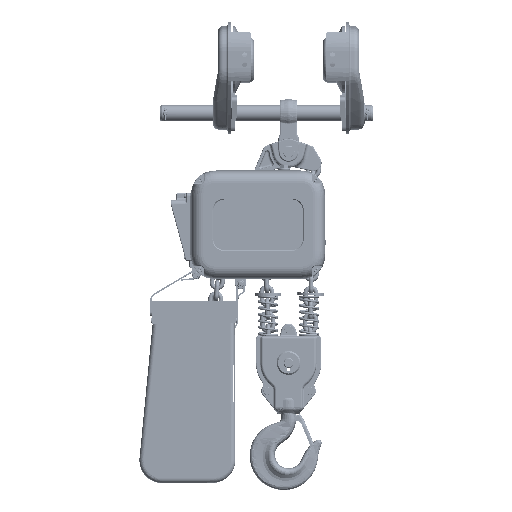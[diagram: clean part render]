
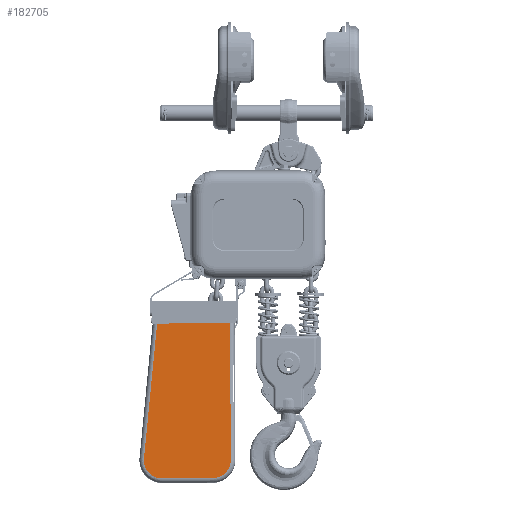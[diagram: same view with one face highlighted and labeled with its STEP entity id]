
A CAD part, top view. The second image highlights one B-rep face of the part: STEP entity #182705.
In plain terms, the highlighted planar face has unit normal (0, 0, 1).
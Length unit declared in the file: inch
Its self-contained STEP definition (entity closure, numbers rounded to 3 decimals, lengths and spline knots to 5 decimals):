
#4751 = DIRECTION ( 'NONE',  ( 0., 0., 1. ) ) ;
#4824 = EDGE_CURVE ( 'NONE', #146448, #190554, #10876, .T. ) ;
#8397 = DIRECTION ( 'NONE',  ( 1., 0., 0. ) ) ;
#9223 = PLANE ( 'NONE',  #136004 ) ;
#10876 = LINE ( 'NONE', #102419, #231178 ) ;
#16801 = CARTESIAN_POINT ( 'NONE',  ( -3.21563, -1.969, 3.54331 ) ) ;
#25345 = DIRECTION ( 'NONE',  ( 0., 0., 1. ) ) ;
#27205 = EDGE_CURVE ( 'NONE', #150473, #190554, #111691, .T. ) ;
#32950 = CARTESIAN_POINT ( 'NONE',  ( 3.14961, -1.969, 3.54331 ) ) ;
#36515 = DIRECTION ( 'NONE',  ( 1., 0., 0. ) ) ;
#38032 = VECTOR ( 'NONE', #113387, 39.37008 ) ;
#50386 = DIRECTION ( 'NONE',  ( 0., 1., 0. ) ) ;
#74047 = CARTESIAN_POINT ( 'NONE',  ( -4.41147, -13.73845, 3.54331 ) ) ;
#83251 = VERTEX_POINT ( 'NONE', #108002 ) ;
#85685 = DIRECTION ( 'NONE',  ( 0., 0., 1. ) ) ;
#93327 = CARTESIAN_POINT ( 'NONE',  ( 1.5748, -15.47244, 3.54331 ) ) ;
#102419 = CARTESIAN_POINT ( 'NONE',  ( 3.5435, -1.969, 3.54331 ) ) ;
#108002 = CARTESIAN_POINT ( 'NONE',  ( -2.84473, -15.47244, 3.54331 ) ) ;
#111691 = LINE ( 'NONE', #128026, #113393 ) ;
#112490 = ORIENTED_EDGE ( 'NONE', *, *, #156678, .T. ) ;
#113387 = DIRECTION ( 'NONE',  ( 1., 0., 0. ) ) ;
#113393 = VECTOR ( 'NONE', #50386, 39.37008 ) ;
#116440 = ORIENTED_EDGE ( 'NONE', *, *, #27205, .T. ) ;
#119349 = DIRECTION ( 'NONE',  ( 1., 0., 0. ) ) ;
#128026 = CARTESIAN_POINT ( 'NONE',  ( 3.14961, -1.969, 3.54331 ) ) ;
#135436 = AXIS2_PLACEMENT_3D ( 'NONE', #178227, #25345, #119349 ) ;
#136004 = AXIS2_PLACEMENT_3D ( 'NONE', #144545, #85685, #162172 ) ;
#141880 = VECTOR ( 'NONE', #206905, 39.37008 ) ;
#144545 = CARTESIAN_POINT ( 'NONE',  ( 3.5435, -1.969, 3.54331 ) ) ;
#146448 = VERTEX_POINT ( 'NONE', #16801 ) ;
#150473 = VERTEX_POINT ( 'NONE', #198144 ) ;
#151768 = LINE ( 'NONE', #74047, #141880 ) ;
#154792 = ORIENTED_EDGE ( 'NONE', *, *, #227345, .T. ) ;
#156457 = CARTESIAN_POINT ( 'NONE',  ( -2.84473, -13.89764, 3.54331 ) ) ;
#156678 = EDGE_CURVE ( 'NONE', #178186, #150473, #191410, .T. ) ;
#162172 = DIRECTION ( 'NONE',  ( 1., 0., 0. ) ) ;
#168549 = AXIS2_PLACEMENT_3D ( 'NONE', #156457, #4751, #36515 ) ;
#173609 = EDGE_CURVE ( 'NONE', #146448, #217668, #151768, .T. ) ;
#178186 = VERTEX_POINT ( 'NONE', #186090 ) ;
#178227 = CARTESIAN_POINT ( 'NONE',  ( 1.5748, -13.89764, 3.54331 ) ) ;
#180915 = FACE_OUTER_BOUND ( 'NONE', #182168, .T. ) ;
#182168 = EDGE_LOOP ( 'NONE', ( #112490, #116440, #185535, #183925, #215414, #154792 ) ) ;
#182705 = ADVANCED_FACE ( 'NONE', ( #180915 ), #9223, .T. ) ;
#183925 = ORIENTED_EDGE ( 'NONE', *, *, #173609, .T. ) ;
#185535 = ORIENTED_EDGE ( 'NONE', *, *, #4824, .F. ) ;
#186090 = CARTESIAN_POINT ( 'NONE',  ( 1.5748, -15.47244, 3.54331 ) ) ;
#190554 = VERTEX_POINT ( 'NONE', #32950 ) ;
#191410 = CIRCLE ( 'NONE', #135436, 1.5748 ) ;
#198144 = CARTESIAN_POINT ( 'NONE',  ( 3.14961, -13.89764, 3.54331 ) ) ;
#203938 = EDGE_CURVE ( 'NONE', #217668, #83251, #244549, .T. ) ;
#206905 = DIRECTION ( 'NONE',  ( -0.101, -0.995, 0. ) ) ;
#211067 = LINE ( 'NONE', #93327, #38032 ) ;
#215414 = ORIENTED_EDGE ( 'NONE', *, *, #203938, .T. ) ;
#217668 = VERTEX_POINT ( 'NONE', #226715 ) ;
#226715 = CARTESIAN_POINT ( 'NONE',  ( -4.41147, -13.73845, 3.54331 ) ) ;
#227345 = EDGE_CURVE ( 'NONE', #83251, #178186, #211067, .T. ) ;
#231178 = VECTOR ( 'NONE', #8397, 39.37008 ) ;
#244549 = CIRCLE ( 'NONE', #168549, 1.5748 ) ;
